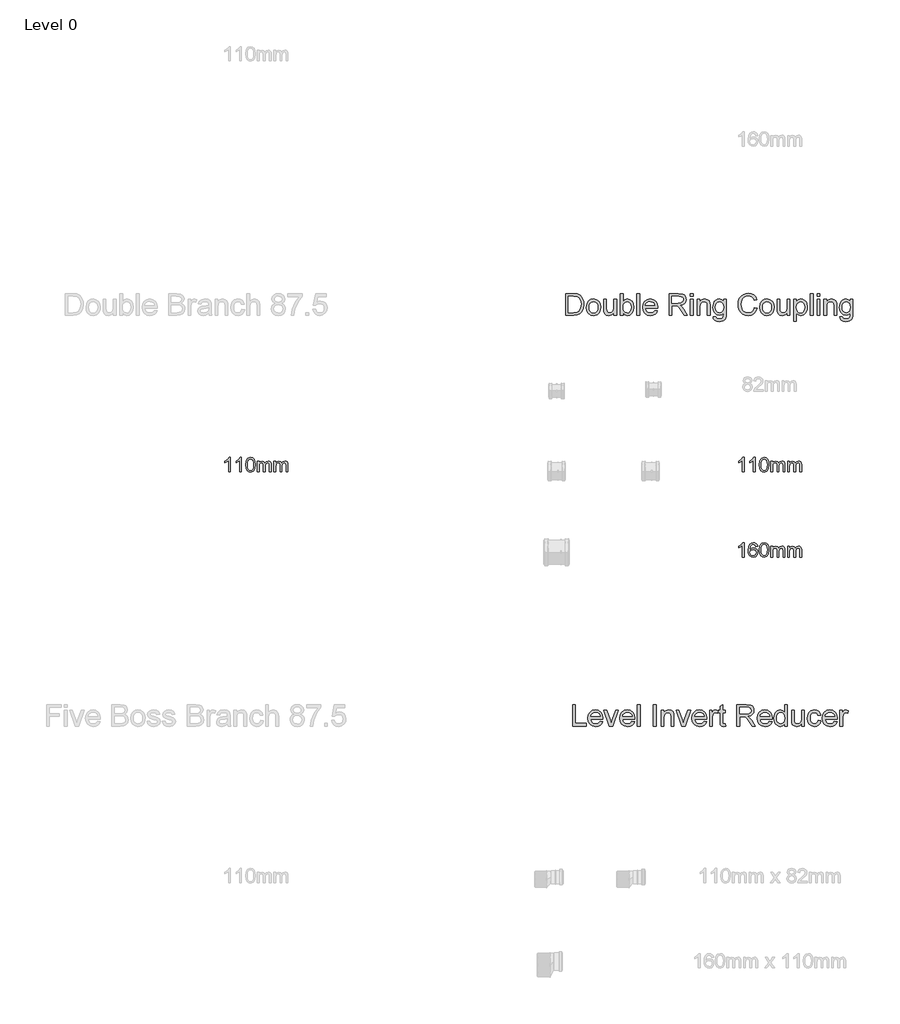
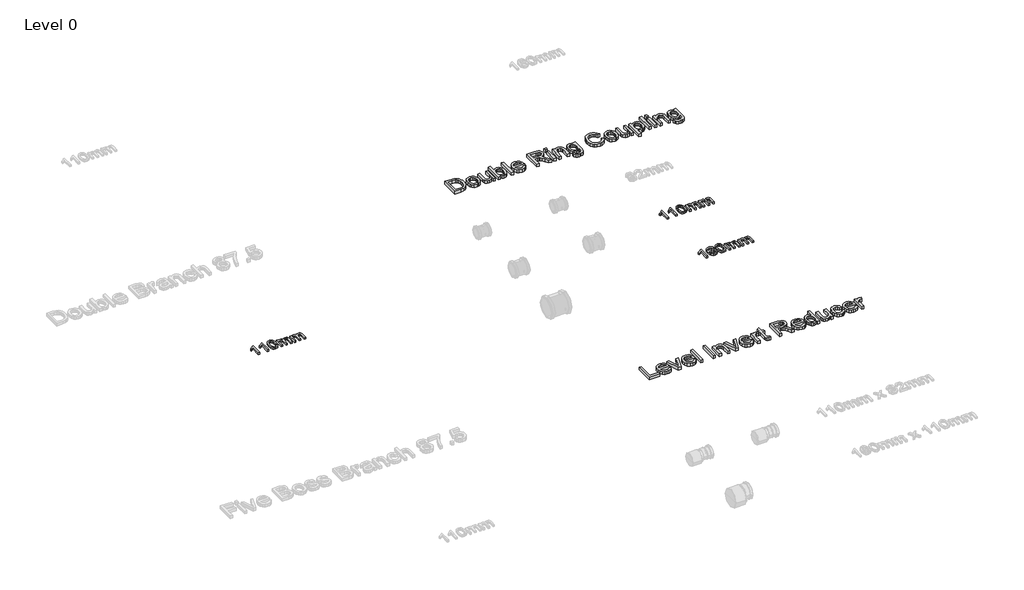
# One storey, part 22 of 23: 5 proxies.
"""IFC4 building model written with IfcOpenShell, lengths in millimetres."""

from ifc_helpers import new_model, si_unit, origin, origin_with_axes, place, context, project, spatial, polyline, outline, extrude, element, save

model = new_model("IFC4")

# Units and contexts
model_context = context("Model", 3, world=origin())
ifc_project = project(units=[si_unit("LENGTHUNIT", "METRE", prefix="MILLI")], contexts=[model_context])

# Site, building, storey
site = spatial("IfcSite", under=ifc_project)
building = spatial("IfcBuilding", under=site)
storey = spatial("IfcBuildingStorey", under=building, Name="Level 0", Elevation=0.0)

# Proxies
placement = place(None, origin())
element("IfcBuildingElementProxy", 1, Name="100mm Arial", ObjectType="100mm Arial", at=placement, inside=storey, context=model_context, shape_type="SweptSolid", body=[
    extrude(outline(polyline([(208.2706812, 5437.7167304), (195.9629889, 5437.7167304), (195.9629889, 5514.4474996), (184.3043351, 5506.1422111), (171.3476043, 5499.9282688), (171.3476043, 5511.5628842), (189.3884697, 5523.0773073), (200.3379889, 5536.1782688), (208.2706812, 5536.1782688), (208.2706812, 5437.7167304)])), origin_with_axes(), (0.0, 0.0, 1.0), 15.0),
    extrude(outline(polyline([(283.6552966, 5437.7167304), (271.3476043, 5437.7167304), (271.3476043, 5514.4474996), (259.6889505, 5506.1422111), (246.7322197, 5499.9282688), (246.7322197, 5511.5628842), (264.7730851, 5523.0773073), (275.7226043, 5536.1782688), (283.6552966, 5536.1782688), (283.6552966, 5437.7167304)])), origin_with_axes(), (0.0, 0.0, 1.0), 15.0),
    extrude(outline(polyline([(312.8860659, 5486.1542304), (316.5038543, 5514.4835573), (327.2490466, 5530.8176919), (345.1937582, 5536.1782688), (359.5687582, 5533.0051919), (369.4966428, 5523.8585573), (375.2658736, 5509.2912496), (377.5014505, 5486.1542304), (373.9197197, 5457.9450958), (363.2105851, 5441.5749035), (345.1937582, 5436.1782688), (332.4052966, 5438.5220188), (322.6937582, 5445.5532688), (315.3379889, 5462.2059131), (312.8860659, 5486.1542304)]), holes=[polyline([(325.1937582, 5486.1782688), (326.6360659, 5466.8182929), (330.9629889, 5455.613365), (337.4052966, 5450.2678121), (345.1937582, 5448.4859611), (352.9822197, 5450.2738217), (359.4245274, 5455.6374035), (363.7514505, 5466.848341), (365.1937582, 5486.1782688), (363.7995274, 5505.1025477), (359.6168351, 5516.394615), (353.1865466, 5522.0015861), (345.0495274, 5523.8705765), (337.3452005, 5522.2239419), (331.1552966, 5517.2840381), (326.6841428, 5505.2888458), (325.1937582, 5486.1782688)])]), origin_with_axes(), (0.0, 0.0, 1.0), 15.0),
    extrude(outline(polyline([(391.3476043, 5437.7167304), (391.3476043, 5510.0244227), (403.6552966, 5510.0244227), (403.6552966, 5498.1253842), (412.1168351, 5507.8729804), (424.1601043, 5511.5628842), (436.4918351, 5507.800865), (443.2706812, 5497.2599996), (452.8740466, 5507.9871631), (465.0014505, 5511.5628842), (474.2532534, 5510.0755044), (481.0952005, 5505.613365), (485.3229649, 5498.0562736), (486.7322197, 5487.2840381), (486.7322197, 5437.7167304), (474.4245274, 5437.7167304), (474.4245274, 5481.9955765), (473.2827005, 5492.2720188), (469.1480851, 5497.332115), (462.1168351, 5499.2551919), (450.0134697, 5494.3273073), (445.1937582, 5478.5340381), (445.1937582, 5437.7167304), (432.8860659, 5437.7167304), (432.8860659, 5483.3657688), (430.0375082, 5495.2888458), (420.6985659, 5499.2551919), (411.5879889, 5496.6109611), (405.5302966, 5488.8705765), (403.6552966, 5474.1830765), (403.6552966, 5437.7167304), (391.3476043, 5437.7167304)])), origin_with_axes(), (0.0, 0.0, 1.0), 15.0),
    extrude(outline(polyline([(505.1937582, 5437.7167304), (505.1937582, 5510.0244227), (517.5014505, 5510.0244227), (517.5014505, 5498.1253842), (525.9629889, 5507.8729804), (538.0062582, 5511.5628842), (550.3379889, 5507.800865), (557.1168351, 5497.2599996), (566.7202005, 5507.9871631), (578.8476043, 5511.5628842), (588.0994072, 5510.0755044), (594.9413543, 5505.613365), (599.1691187, 5498.0562736), (600.5783736, 5487.2840381), (600.5783736, 5437.7167304), (588.2706812, 5437.7167304), (588.2706812, 5481.9955765), (587.1288543, 5492.2720188), (582.9942389, 5497.332115), (575.9629889, 5499.2551919), (563.8596236, 5494.3273073), (559.039912, 5478.5340381), (559.039912, 5437.7167304), (546.7322197, 5437.7167304), (546.7322197, 5483.3657688), (543.883662, 5495.2888458), (534.5447197, 5499.2551919), (525.4341428, 5496.6109611), (519.3764505, 5488.8705765), (517.5014505, 5474.1830765), (517.5014505, 5437.7167304), (505.1937582, 5437.7167304)])), origin_with_axes(), (0.0, 0.0, 1.0), 15.0),
])
element("IfcBuildingElementProxy", 2, Name="100mm Arial", ObjectType="100mm Arial", at=placement, inside=storey, context=model_context, shape_type="SweptSolid", body=[
    extrude(outline(polyline([(3708.2706812, 5437.7167304), (3695.9629889, 5437.7167304), (3695.9629889, 5514.4474996), (3684.3043351, 5506.1422111), (3671.3476043, 5499.9282688), (3671.3476043, 5511.5628842), (3689.3884697, 5523.0773073), (3700.3379889, 5536.1782688), (3708.2706812, 5536.1782688), (3708.2706812, 5437.7167304)])), origin_with_axes(), (0.0, 0.0, 1.0), 15.0),
    extrude(outline(polyline([(3783.6552966, 5437.7167304), (3771.3476043, 5437.7167304), (3771.3476043, 5514.4474996), (3759.6889505, 5506.1422111), (3746.7322197, 5499.9282688), (3746.7322197, 5511.5628842), (3764.7730851, 5523.0773073), (3775.7226043, 5536.1782688), (3783.6552966, 5536.1782688), (3783.6552966, 5437.7167304)])), origin_with_axes(), (0.0, 0.0, 1.0), 15.0),
    extrude(outline(polyline([(3812.8860659, 5486.1542304), (3816.5038543, 5514.4835573), (3827.2490466, 5530.8176919), (3845.1937582, 5536.1782688), (3859.5687582, 5533.0051919), (3869.4966428, 5523.8585573), (3875.2658736, 5509.2912496), (3877.5014505, 5486.1542304), (3873.9197197, 5457.9450958), (3863.2105851, 5441.5749035), (3845.1937582, 5436.1782688), (3832.4052966, 5438.5220188), (3822.6937582, 5445.5532688), (3815.3379889, 5462.2059131), (3812.8860659, 5486.1542304)]), holes=[polyline([(3825.1937582, 5486.1782688), (3826.6360659, 5466.8182929), (3830.9629889, 5455.613365), (3837.4052966, 5450.2678121), (3845.1937582, 5448.4859611), (3852.9822197, 5450.2738217), (3859.4245274, 5455.6374035), (3863.7514505, 5466.848341), (3865.1937582, 5486.1782688), (3863.7995274, 5505.1025477), (3859.6168351, 5516.394615), (3853.1865466, 5522.0015861), (3845.0495274, 5523.8705765), (3837.3452005, 5522.2239419), (3831.1552966, 5517.2840381), (3826.6841428, 5505.2888458), (3825.1937582, 5486.1782688)])]), origin_with_axes(), (0.0, 0.0, 1.0), 15.0),
    extrude(outline(polyline([(3891.3476043, 5437.7167304), (3891.3476043, 5510.0244227), (3903.6552966, 5510.0244227), (3903.6552966, 5498.1253842), (3912.1168351, 5507.8729804), (3924.1601043, 5511.5628842), (3936.4918351, 5507.800865), (3943.2706812, 5497.2599996), (3952.8740466, 5507.9871631), (3965.0014505, 5511.5628842), (3974.2532534, 5510.0755044), (3981.0952005, 5505.613365), (3985.3229649, 5498.0562736), (3986.7322197, 5487.2840381), (3986.7322197, 5437.7167304), (3974.4245274, 5437.7167304), (3974.4245274, 5481.9955765), (3973.2827005, 5492.2720188), (3969.1480851, 5497.332115), (3962.1168351, 5499.2551919), (3950.0134697, 5494.3273073), (3945.1937582, 5478.5340381), (3945.1937582, 5437.7167304), (3932.8860659, 5437.7167304), (3932.8860659, 5483.3657688), (3930.0375082, 5495.2888458), (3920.6985659, 5499.2551919), (3911.5879889, 5496.6109611), (3905.5302966, 5488.8705765), (3903.6552966, 5474.1830765), (3903.6552966, 5437.7167304), (3891.3476043, 5437.7167304)])), origin_with_axes(), (0.0, 0.0, 1.0), 15.0),
    extrude(outline(polyline([(4005.1937582, 5437.7167304), (4005.1937582, 5510.0244227), (4017.5014505, 5510.0244227), (4017.5014505, 5498.1253842), (4025.9629889, 5507.8729804), (4038.0062582, 5511.5628842), (4050.3379889, 5507.800865), (4057.1168351, 5497.2599996), (4066.7202005, 5507.9871631), (4078.8476043, 5511.5628842), (4088.0994072, 5510.0755044), (4094.9413543, 5505.613365), (4099.1691187, 5498.0562736), (4100.5783736, 5487.2840381), (4100.5783736, 5437.7167304), (4088.2706812, 5437.7167304), (4088.2706812, 5481.9955765), (4087.1288543, 5492.2720188), (4082.9942389, 5497.332115), (4075.9629889, 5499.2551919), (4063.8596236, 5494.3273073), (4059.039912, 5478.5340381), (4059.039912, 5437.7167304), (4046.7322197, 5437.7167304), (4046.7322197, 5483.3657688), (4043.883662, 5495.2888458), (4034.5447197, 5499.2551919), (4025.4341428, 5496.6109611), (4019.3764505, 5488.8705765), (4017.5014505, 5474.1830765), (4017.5014505, 5437.7167304), (4005.1937582, 5437.7167304)])), origin_with_axes(), (0.0, 0.0, 1.0), 15.0),
])
element("IfcBuildingElementProxy", 3, Name="100mm Arial", ObjectType="100mm Arial", at=placement, inside=storey, context=model_context, shape_type="SweptSolid", body=[
    extrude(outline(polyline([(3708.2706812, 4857.7167304), (3695.9629889, 4857.7167304), (3695.9629889, 4934.4474996), (3684.3043351, 4926.1422111), (3671.3476043, 4919.9282688), (3671.3476043, 4931.5628842), (3689.3884697, 4943.0773073), (3700.3379889, 4956.1782688), (3708.2706812, 4956.1782688), (3708.2706812, 4857.7167304)])), origin_with_axes(), (0.0, 0.0, 1.0), 15.0),
    extrude(outline(polyline([(3800.5783736, 4930.0244227), (3788.2706812, 4928.4859611), (3783.6072197, 4938.7503842), (3771.2754889, 4943.8705765), (3760.1697197, 4940.8898073), (3751.7682774, 4929.6999035), (3748.2706812, 4907.7648073), (3759.1240466, 4917.5845188), (3772.5735659, 4920.7936535), (3783.9437582, 4918.6001438), (3793.4870274, 4912.019615), (3799.9593832, 4901.9655285), (3802.1168351, 4889.3513458), (3798.0543351, 4872.3681727), (3786.8764505, 4860.3489419), (3770.7466428, 4856.1782688), (3756.7833014, 4858.9426919), (3745.6625082, 4867.2359611), (3738.3878687, 4881.8753842), (3735.9629889, 4903.6782688), (3738.6552966, 4928.19149), (3746.7322197, 4944.9523073), (3757.7598639, 4953.3717785), (3772.0447197, 4956.1782688), (3782.8439986, 4954.44149), (3791.4918351, 4949.2311535), (3797.5495274, 4940.9559131), (3800.5783736, 4930.0244227)]), holes=[polyline([(3748.2706812, 4889.5436535), (3751.1192389, 4878.8825958), (3758.6913543, 4871.1422111), (3769.7851043, 4868.4859611), (3777.9070995, 4869.8621631), (3784.2923159, 4873.9907688), (3788.4299361, 4880.4811535), (3789.8091428, 4888.9426919), (3788.4479649, 4897.0646871), (3784.3644312, 4903.2575958), (3769.2802966, 4908.4859611), (3754.3884697, 4903.2575958), (3749.8001284, 4897.2149275), (3748.2706812, 4889.5436535)])]), origin_with_axes(), (0.0, 0.0, 1.0), 15.0),
    extrude(outline(polyline([(3812.8860659, 4906.1542304), (3816.5038543, 4934.4835573), (3827.2490466, 4950.8176919), (3845.1937582, 4956.1782688), (3859.5687582, 4953.0051919), (3869.4966428, 4943.8585573), (3875.2658736, 4929.2912496), (3877.5014505, 4906.1542304), (3873.9197197, 4877.9450958), (3863.2105851, 4861.5749035), (3845.1937582, 4856.1782688), (3832.4052966, 4858.5220188), (3822.6937582, 4865.5532688), (3815.3379889, 4882.2059131), (3812.8860659, 4906.1542304)]), holes=[polyline([(3825.1937582, 4906.1782688), (3826.6360659, 4886.8182929), (3830.9629889, 4875.613365), (3837.4052966, 4870.2678121), (3845.1937582, 4868.4859611), (3852.9822197, 4870.2738217), (3859.4245274, 4875.6374035), (3863.7514505, 4886.848341), (3865.1937582, 4906.1782688), (3863.7995274, 4925.1025477), (3859.6168351, 4936.394615), (3853.1865466, 4942.0015861), (3845.0495274, 4943.8705765), (3837.3452005, 4942.2239419), (3831.1552966, 4937.2840381), (3826.6841428, 4925.2888458), (3825.1937582, 4906.1782688)])]), origin_with_axes(), (0.0, 0.0, 1.0), 15.0),
    extrude(outline(polyline([(3891.3476043, 4857.7167304), (3891.3476043, 4930.0244227), (3903.6552966, 4930.0244227), (3903.6552966, 4918.1253842), (3912.1168351, 4927.8729804), (3924.1601043, 4931.5628842), (3936.4918351, 4927.800865), (3943.2706812, 4917.2599996), (3952.8740466, 4927.9871631), (3965.0014505, 4931.5628842), (3974.2532534, 4930.0755044), (3981.0952005, 4925.613365), (3985.3229649, 4918.0562736), (3986.7322197, 4907.2840381), (3986.7322197, 4857.7167304), (3974.4245274, 4857.7167304), (3974.4245274, 4901.9955765), (3973.2827005, 4912.2720188), (3969.1480851, 4917.332115), (3962.1168351, 4919.2551919), (3950.0134697, 4914.3273073), (3945.1937582, 4898.5340381), (3945.1937582, 4857.7167304), (3932.8860659, 4857.7167304), (3932.8860659, 4903.3657688), (3930.0375082, 4915.2888458), (3920.6985659, 4919.2551919), (3911.5879889, 4916.6109611), (3905.5302966, 4908.8705765), (3903.6552966, 4894.1830765), (3903.6552966, 4857.7167304), (3891.3476043, 4857.7167304)])), origin_with_axes(), (0.0, 0.0, 1.0), 15.0),
    extrude(outline(polyline([(4005.1937582, 4857.7167304), (4005.1937582, 4930.0244227), (4017.5014505, 4930.0244227), (4017.5014505, 4918.1253842), (4025.9629889, 4927.8729804), (4038.0062582, 4931.5628842), (4050.3379889, 4927.800865), (4057.1168351, 4917.2599996), (4066.7202005, 4927.9871631), (4078.8476043, 4931.5628842), (4088.0994072, 4930.0755044), (4094.9413543, 4925.613365), (4099.1691187, 4918.0562736), (4100.5783736, 4907.2840381), (4100.5783736, 4857.7167304), (4088.2706812, 4857.7167304), (4088.2706812, 4901.9955765), (4087.1288543, 4912.2720188), (4082.9942389, 4917.332115), (4075.9629889, 4919.2551919), (4063.8596236, 4914.3273073), (4059.039912, 4898.5340381), (4059.039912, 4857.7167304), (4046.7322197, 4857.7167304), (4046.7322197, 4903.3657688), (4043.883662, 4915.2888458), (4034.5447197, 4919.2551919), (4025.4341428, 4916.6109611), (4019.3764505, 4908.8705765), (4017.5014505, 4894.1830765), (4017.5014505, 4857.7167304), (4005.1937582, 4857.7167304)])), origin_with_axes(), (0.0, 0.0, 1.0), 15.0),
])
element("IfcBuildingElementProxy", 4, Name="150mm Arial", ObjectType="150mm Arial", at=placement, inside=storey, context=model_context, shape_type="SweptSolid", body=[
    extrude(outline(polyline([(2493.6258565, 6505.2145219), (2493.6258565, 6652.9068296), (2544.5753757, 6652.9068296), (2570.9335488, 6650.7794258), (2592.6402796, 6640.2145219), (2602.8536209, 6628.9645219), (2610.1282603, 6614.9741373), (2614.4822267, 6598.5138008), (2615.9335488, 6579.853945), (2612.0032603, 6550.0522623), (2601.9071065, 6528.5438488), (2588.4215296, 6515.1484161), (2570.7712892, 6507.7385604), (2547.0272988, 6505.2145219), (2493.6258565, 6505.2145219)]), holes=[polyline([(2512.087395, 6523.6760604), (2544.7556642, 6523.6760604), (2568.5176834, 6526.3443296), (2582.2196065, 6533.8803873), (2593.4515777, 6552.2157238), (2597.4720103, 6580.1424065), (2595.5023589, 6600.2625988), (2589.5934046, 6615.1183681), (2580.8629358, 6625.322695), (2570.4287411, 6631.4885604), (2544.2508565, 6634.4452911), (2512.087395, 6634.4452911), (2512.087395, 6523.6760604)])]), origin_with_axes(), (0.0, 0.0, 1.0), 25.0),
    extrude(outline(polyline([(2634.3950873, 6559.4452911), (2638.3884767, 6585.5961325), (2650.368645, 6603.9765411), (2665.1703277, 6612.9819498), (2682.8926834, 6615.9837527), (2702.2872147, 6612.3284041), (2717.7785007, 6601.3623585), (2727.9332483, 6583.9510003), (2731.3181642, 6560.9597142), (2729.82177, 6542.3088729), (2725.3325873, 6528.1111565), (2717.9813253, 6517.4786445), (2707.898693, 6509.5234161), (2695.923032, 6504.5609762), (2682.8926834, 6502.9068296), (2663.2637772, 6506.5486565), (2647.79052, 6517.4741373), (2637.7439454, 6535.2505796), (2634.3950873, 6559.4452911)]), holes=[polyline([(2652.8566257, 6559.4813488), (2654.993044, 6542.7731157), (2661.4022988, 6530.86957), (2671.0477315, 6523.7436686), (2682.8926834, 6521.3683681), (2694.6835488, 6523.7571902), (2704.3109527, 6530.9236565), (2710.7202075, 6542.9849546), (2712.8566257, 6560.0582719), (2710.7066858, 6576.2797262), (2704.2568661, 6588.0210123), (2694.6159406, 6595.1469137), (2682.8926834, 6597.5222142), (2671.0477315, 6595.1559282), (2661.4022988, 6588.05707), (2654.993044, 6576.1805676), (2652.8566257, 6559.4813488)])]), origin_with_axes(), (0.0, 0.0, 1.0), 25.0),
    extrude(outline(polyline([(2821.3181642, 6505.2145219), (2821.3181642, 6523.8563488), (2806.8590296, 6508.1442094), (2788.0008565, 6502.9068296), (2770.6390777, 6506.5847142), (2758.6679238, 6515.8154835), (2753.1691257, 6529.4092335), (2752.087395, 6546.572695), (2752.087395, 6613.6760604), (2770.5489334, 6613.6760604), (2770.5489334, 6555.2625988), (2771.6667219, 6536.4404835), (2778.9684046, 6525.3888008), (2792.7244142, 6521.3683681), (2808.1390777, 6525.478945), (2818.3253757, 6536.6748585), (2821.3181642, 6557.2457719), (2821.3181642, 6613.6760604), (2839.7797027, 6613.6760604), (2839.7797027, 6505.2145219), (2821.3181642, 6505.2145219)])), origin_with_axes(), (0.0, 0.0, 1.0), 25.0),
    extrude(outline(polyline([(2883.6258565, 6505.2145219), (2865.164318, 6505.2145219), (2865.164318, 6652.9068296), (2883.6258565, 6652.9068296), (2883.6258565, 6598.135195), (2896.5525392, 6611.5216133), (2912.6162411, 6615.9837527), (2931.1138373, 6611.96332), (2945.4647988, 6600.6592335), (2954.2809046, 6583.0811085), (2957.4720103, 6561.0678873), (2954.1682243, 6536.4224546), (2944.2568661, 6518.0871181), (2929.7120945, 6506.7019017), (2912.508068, 6502.9068296), (2896.0928036, 6507.8016613), (2883.6258565, 6522.4861565), (2883.6258565, 6505.2145219)]), holes=[polyline([(2883.6258565, 6560.2025027), (2884.8878757, 6544.8058681), (2888.6739334, 6534.385195), (2898.3464094, 6524.6225748), (2910.9215296, 6521.3683681), (2921.5765777, 6523.7662046), (2930.681145, 6530.9597142), (2936.9281402, 6542.9038248), (2939.0104719, 6559.5534642), (2937.0137772, 6576.4464931), (2931.023693, 6588.2553873), (2922.2030801, 6595.2055075), (2911.7147988, 6597.5222142), (2901.0597507, 6595.1243777), (2891.9551834, 6587.9308681), (2885.7081882, 6576.2031036), (2883.6258565, 6560.2025027)])]), origin_with_axes(), (0.0, 0.0, 1.0), 25.0),
    extrude(outline(polyline([(2978.2412411, 6505.2145219), (2978.2412411, 6652.9068296), (2996.7027796, 6652.9068296), (2996.7027796, 6505.2145219), (2978.2412411, 6505.2145219)])), origin_with_axes(), (0.0, 0.0, 1.0), 25.0),
    extrude(outline(polyline([(3100.3325873, 6537.5222142), (3118.4335488, 6535.2145219), (3111.9116137, 6521.5756998), (3101.5044623, 6511.3803873), (3087.4464695, 6505.025219), (3069.9720103, 6502.9068296), (3048.3103517, 6506.5621782), (3031.6426834, 6517.5282238), (3021.0146786, 6535.0928272), (3017.4720103, 6558.5438488), (3021.0507363, 6582.7836325), (3031.7869142, 6600.9116373), (3048.2292219, 6612.2157238), (3068.9263373, 6615.9837527), (3088.9789214, 6612.2247383), (3105.0020584, 6600.947695), (3115.5083685, 6582.8557479), (3119.0104719, 6558.6520219), (3118.9022988, 6553.6760604), (3035.9335488, 6553.6760604), (3039.1291618, 6539.8569498), (3046.5525392, 6529.697695), (3057.266181, 6523.4506998), (3070.3325873, 6521.3683681), (3088.4335488, 6525.2265411), (3100.3325873, 6537.5222142)]), holes=[polyline([(3035.9335488, 6572.1375988), (3100.5489334, 6572.1375988), (3098.0519382, 6581.8912046), (3093.1571065, 6588.8683681), (3082.3938853, 6595.3587527), (3068.8542219, 6597.5222142), (3056.4098108, 6595.7959522), (3046.1198469, 6590.6171661), (3038.9669022, 6582.5447503), (3035.9335488, 6572.1375988)])]), origin_with_axes(), (0.0, 0.0, 1.0), 25.0),
    extrude(outline(polyline([(3197.4720103, 6505.2145219), (3197.4720103, 6652.9068296), (3261.1138373, 6652.9068296), (3290.6631161, 6648.9224546), (3299.758669, 6643.4056277), (3306.8169623, 6634.8238969), (3311.3467099, 6624.1823705), (3312.8566257, 6612.4861565), (3310.3551233, 6597.9368777), (3302.8506161, 6585.8755796), (3290.1177435, 6577.0324306), (3271.931145, 6572.1375988), (3282.4239334, 6564.2409642), (3297.3878757, 6545.2385604), (3322.0152796, 6505.2145219), (3300.5609527, 6505.2145219), (3281.3422027, 6535.8275027), (3267.4599911, 6556.0919258), (3257.7063853, 6565.6652431), (3248.9263373, 6569.1808681), (3238.2172027, 6569.8299065), (3215.9335488, 6569.8299065), (3215.9335488, 6505.2145219), (3197.4720103, 6505.2145219)]), holes=[polyline([(3215.9335488, 6588.291445), (3257.2556642, 6588.291445), (3278.3313853, 6590.9056277), (3290.3025392, 6599.2710123), (3294.3950873, 6611.8010604), (3292.4434647, 6620.806469), (3286.5885969, 6628.0630796), (3276.5149791, 6632.8497383), (3261.9071065, 6634.4452911), (3215.9335488, 6634.4452911), (3215.9335488, 6588.291445)])]), origin_with_axes(), (0.0, 0.0, 1.0), 25.0),
    extrude(outline(polyline([(3342.8566257, 6634.4452911), (3342.8566257, 6652.9068296), (3361.3181642, 6652.9068296), (3361.3181642, 6634.4452911), (3342.8566257, 6634.4452911)])), origin_with_axes(), (0.0, 0.0, 1.0), 25.0),
    extrude(outline(polyline([(3342.8566257, 6505.2145219), (3342.8566257, 6613.6760604), (3361.3181642, 6613.6760604), (3361.3181642, 6505.2145219), (3342.8566257, 6505.2145219)])), origin_with_axes(), (0.0, 0.0, 1.0), 25.0),
    extrude(outline(polyline([(3389.0104719, 6505.2145219), (3389.0104719, 6613.6760604), (3407.4720103, 6613.6760604), (3407.4720103, 6598.5318296), (3421.5885969, 6611.6207719), (3440.8614334, 6615.9837527), (3458.2953277, 6612.4681277), (3470.1943661, 6603.2373585), (3475.7292219, 6589.6616373), (3476.7027796, 6571.8130796), (3476.7027796, 6505.2145219), (3458.2412411, 6505.2145219), (3458.2412411, 6569.3250988), (3456.1138373, 6585.6592335), (3448.5958084, 6594.2950508), (3435.9215296, 6597.5222142), (3425.1087291, 6595.7103152), (3415.8914815, 6590.2746181), (3409.5768781, 6579.7728152), (3407.4720103, 6562.7625988), (3407.4720103, 6505.2145219), (3389.0104719, 6505.2145219)])), origin_with_axes(), (0.0, 0.0, 1.0), 25.0),
    extrude(outline(polyline([(3497.4720103, 6495.9837527), (3515.9335488, 6493.6760604), (3521.9191257, 6483.9404835), (3539.8397988, 6479.8299065), (3558.7340296, 6484.4813488), (3567.7484527, 6497.5342335), (3569.0104719, 6519.0606758), (3556.0116738, 6508.6760604), (3540.164318, 6505.2145219), (3521.1303637, 6509.243969), (3506.9371546, 6521.3323104), (3498.1075272, 6539.0546661), (3495.164318, 6559.9861565), (3500.44677, 6588.5979354), (3506.9101113, 6600.2130195), (3515.7352315, 6608.8443296), (3526.6201474, 6614.1988969), (3539.2628757, 6615.9837527), (3555.7322267, 6611.9452911), (3569.0104719, 6599.8299065), (3569.0104719, 6613.6760604), (3587.4720103, 6613.6760604), (3587.4720103, 6520.0342335), (3586.2099911, 6498.4131397), (3582.4239334, 6484.1748585), (3575.9019983, 6474.7322503), (3566.4323469, 6467.4981758), (3554.2223108, 6462.90082), (3539.4792219, 6461.3683681), (3522.3022387, 6463.5273224), (3508.7760969, 6470.0041854), (3500.0997147, 6480.8169859), (3497.4720103, 6495.9837527)]), holes=[polyline([(3513.6258565, 6561.2481758), (3515.5955079, 6544.314582), (3521.5044623, 6532.6724546), (3530.3881762, 6525.9251589), (3541.2821065, 6523.6760604), (3552.094907, 6525.9116373), (3561.023693, 6532.6183681), (3567.0137772, 6544.1117575), (3569.0104719, 6560.7073104), (3566.9551834, 6576.7124186), (3560.789318, 6588.2373585), (3551.7298228, 6595.2010003), (3540.993645, 6597.5222142), (3530.4512772, 6595.237058), (3521.6126353, 6588.3815892), (3515.6225512, 6577.0279234), (3513.6258565, 6561.2481758)])]), origin_with_axes(), (0.0, 0.0, 1.0), 25.0),
    extrude(outline(polyline([(3779.0104719, 6557.7145219), (3797.4720103, 6552.9549065), (3788.9533805, 6531.4419859), (3775.5849911, 6515.7253392), (3758.024895, 6506.111457), (3736.931145, 6502.9068296), (3715.5173829, 6505.3317094), (3698.5116738, 6512.6063488), (3685.476818, 6524.478344), (3675.9756161, 6540.6952911), (3670.1748349, 6559.760796), (3668.2412411, 6580.1784642), (3670.4272387, 6601.713921), (3676.9852315, 6620.3106758), (3687.5726714, 6635.3782839), (3701.8470103, 6646.3263008), (3718.7760969, 6652.9924666), (3737.3277796, 6655.2145219), (3757.5696666, 6652.338921), (3774.304943, 6643.7121181), (3787.0107724, 6629.8659642), (3795.164318, 6611.3323104), (3776.7027796, 6606.9332719), (3770.3025392, 6620.3963128), (3761.5585488, 6629.6315892), (3750.3626353, 6634.9726349), (3736.6066257, 6636.7529835), (3720.7502555, 6634.7788248), (3707.7244142, 6628.8563488), (3697.8400993, 6619.6075508), (3691.4083084, 6607.6544258), (3686.7027796, 6580.2145219), (3692.273693, 6548.4116373), (3699.3950873, 6536.5351349), (3709.617443, 6528.0931277), (3721.8725512, 6523.049558), (3735.0922027, 6521.3683681), (3750.5023589, 6523.6580315), (3763.3434046, 6530.5270219), (3773.0384166, 6541.9032238), (3779.0104719, 6557.7145219)])), origin_with_axes(), (0.0, 0.0, 1.0), 25.0),
    extrude(outline(polyline([(3815.9335488, 6559.4452911), (3819.9269382, 6585.5961325), (3831.9071065, 6603.9765411), (3846.7087892, 6612.9819498), (3864.431145, 6615.9837527), (3883.8256762, 6612.3284041), (3899.3169623, 6601.3623585), (3909.4717099, 6583.9510003), (3912.8566257, 6560.9597142), (3911.3602315, 6542.3088729), (3906.8710488, 6528.1111565), (3899.5197868, 6517.4786445), (3889.4371546, 6509.5234161), (3877.4614935, 6504.5609762), (3864.431145, 6502.9068296), (3844.8022387, 6506.5486565), (3829.3289815, 6517.4741373), (3819.282407, 6535.2505796), (3815.9335488, 6559.4452911)]), holes=[polyline([(3834.3950873, 6559.4813488), (3836.5315055, 6542.7731157), (3842.9407603, 6530.86957), (3852.586193, 6523.7436686), (3864.431145, 6521.3683681), (3876.2220103, 6523.7571902), (3885.8494142, 6530.9236565), (3892.258669, 6542.9849546), (3894.3950873, 6560.0582719), (3892.2451474, 6576.2797262), (3885.7953277, 6588.0210123), (3876.1544022, 6595.1469137), (3864.431145, 6597.5222142), (3852.586193, 6595.1559282), (3842.9407603, 6588.05707), (3836.5315055, 6576.1805676), (3834.3950873, 6559.4813488)])]), origin_with_axes(), (0.0, 0.0, 1.0), 25.0),
    extrude(outline(polyline([(4002.8566257, 6505.2145219), (4002.8566257, 6523.8563488), (3988.3974911, 6508.1442094), (3969.539318, 6502.9068296), (3952.1775392, 6506.5847142), (3940.2063853, 6515.8154835), (3934.7075873, 6529.4092335), (3933.6258565, 6546.572695), (3933.6258565, 6613.6760604), (3952.087395, 6613.6760604), (3952.087395, 6555.2625988), (3953.2051834, 6536.4404835), (3960.5068661, 6525.3888008), (3974.2628757, 6521.3683681), (3989.6775392, 6525.478945), (3999.8638373, 6536.6748585), (4002.8566257, 6557.2457719), (4002.8566257, 6613.6760604), (4021.3181642, 6613.6760604), (4021.3181642, 6505.2145219), (4002.8566257, 6505.2145219)])), origin_with_axes(), (0.0, 0.0, 1.0), 25.0),
    extrude(outline(polyline([(4046.7027796, 6463.6760604), (4046.7027796, 6613.6760604), (4065.164318, 6613.6760604), (4065.164318, 6595.5750988), (4077.9287411, 6610.8815892), (4095.164318, 6615.9837527), (4107.649294, 6614.1988969), (4118.5657603, 6608.8443296), (4127.4539815, 6600.24457), (4133.8542219, 6588.7241373), (4139.0104719, 6560.2746181), (4137.5546426, 6544.4858561), (4133.1871546, 6530.3647623), (4126.0477315, 6518.6279835), (4116.2760969, 6509.9921661), (4104.8953878, 6504.6781637), (4092.9287411, 6502.9068296), (4076.8650392, 6507.6484161), (4065.164318, 6519.6375988), (4065.164318, 6463.6760604), (4046.7027796, 6463.6760604)]), holes=[polyline([(4065.164318, 6558.5799065), (4067.1610128, 6542.0294258), (4073.1510969, 6530.4549065), (4081.9897387, 6523.6400027), (4092.5321065, 6521.3683681), (4103.2457483, 6523.7211325), (4112.3097507, 6530.7794258), (4118.4891378, 6542.7776229), (4120.5489334, 6559.9500988), (4118.5387171, 6576.4104354), (4112.508068, 6588.1472142), (4103.6829478, 6595.1784642), (4093.289318, 6597.5222142), (4082.8551233, 6595.0297262), (4073.6919623, 6587.5522623), (4067.2962291, 6575.3241974), (4065.164318, 6558.5799065)])]), origin_with_axes(), (0.0, 0.0, 1.0), 25.0),
    extrude(outline(polyline([(4159.7797027, 6505.2145219), (4159.7797027, 6652.9068296), (4178.2412411, 6652.9068296), (4178.2412411, 6505.2145219), (4159.7797027, 6505.2145219)])), origin_with_axes(), (0.0, 0.0, 1.0), 25.0),
    extrude(outline(polyline([(4205.9335488, 6634.4452911), (4205.9335488, 6652.9068296), (4224.3950873, 6652.9068296), (4224.3950873, 6634.4452911), (4205.9335488, 6634.4452911)])), origin_with_axes(), (0.0, 0.0, 1.0), 25.0),
    extrude(outline(polyline([(4205.9335488, 6505.2145219), (4205.9335488, 6613.6760604), (4224.3950873, 6613.6760604), (4224.3950873, 6505.2145219), (4205.9335488, 6505.2145219)])), origin_with_axes(), (0.0, 0.0, 1.0), 25.0),
    extrude(outline(polyline([(4252.087395, 6505.2145219), (4252.087395, 6613.6760604), (4270.5489334, 6613.6760604), (4270.5489334, 6598.5318296), (4284.66552, 6611.6207719), (4303.9383565, 6615.9837527), (4321.3722507, 6612.4681277), (4333.2712892, 6603.2373585), (4338.806145, 6589.6616373), (4339.7797027, 6571.8130796), (4339.7797027, 6505.2145219), (4321.3181642, 6505.2145219), (4321.3181642, 6569.3250988), (4319.1907603, 6585.6592335), (4311.6727315, 6594.2950508), (4298.9984527, 6597.5222142), (4288.1856522, 6595.7103152), (4278.9684046, 6590.2746181), (4272.6538012, 6579.7728152), (4270.5489334, 6562.7625988), (4270.5489334, 6505.2145219), (4252.087395, 6505.2145219)])), origin_with_axes(), (0.0, 0.0, 1.0), 25.0),
    extrude(outline(polyline([(4360.5489334, 6495.9837527), (4379.0104719, 6493.6760604), (4384.9960488, 6483.9404835), (4402.9167219, 6479.8299065), (4421.8109527, 6484.4813488), (4430.8253757, 6497.5342335), (4432.087395, 6519.0606758), (4419.0885969, 6508.6760604), (4403.2412411, 6505.2145219), (4384.2072868, 6509.243969), (4370.0140777, 6521.3323104), (4361.1844503, 6539.0546661), (4358.2412411, 6559.9861565), (4363.523693, 6588.5979354), (4369.9870344, 6600.2130195), (4378.8121546, 6608.8443296), (4389.6970704, 6614.1988969), (4402.3397988, 6615.9837527), (4418.8091498, 6611.9452911), (4432.087395, 6599.8299065), (4432.087395, 6613.6760604), (4450.5489334, 6613.6760604), (4450.5489334, 6520.0342335), (4449.2869142, 6498.4131397), (4445.5008565, 6484.1748585), (4438.9789214, 6474.7322503), (4429.50927, 6467.4981758), (4417.2992339, 6462.90082), (4402.556145, 6461.3683681), (4385.3791618, 6463.5273224), (4371.85302, 6470.0041854), (4363.1766378, 6480.8169859), (4360.5489334, 6495.9837527)]), holes=[polyline([(4376.7027796, 6561.2481758), (4378.672431, 6544.314582), (4384.5813853, 6532.6724546), (4393.4650993, 6525.9251589), (4404.3590296, 6523.6760604), (4415.1718301, 6525.9116373), (4424.1006161, 6532.6183681), (4430.0907003, 6544.1117575), (4432.087395, 6560.7073104), (4430.0321065, 6576.7124186), (4423.8662411, 6588.2373585), (4414.8067459, 6595.2010003), (4404.070568, 6597.5222142), (4393.5282003, 6595.237058), (4384.6895584, 6588.3815892), (4378.6994743, 6577.0279234), (4376.7027796, 6561.2481758)])]), origin_with_axes(), (0.0, 0.0, 1.0), 25.0),
])
element("IfcBuildingElementProxy", 5, Name="150mm Arial", ObjectType="150mm Arial", at=placement, inside=storey, context=model_context, shape_type="SweptSolid", body=[
    extrude(outline(polyline([(2540.9335488, 3705.2145219), (2540.9335488, 3852.9068296), (2559.3950873, 3852.9068296), (2559.3950873, 3723.6760604), (2633.2412411, 3723.6760604), (2633.2412411, 3705.2145219), (2540.9335488, 3705.2145219)])), origin_with_axes(), (0.0, 0.0, 1.0), 25.0),
    extrude(outline(polyline([(2727.6402796, 3737.5222142), (2745.7412411, 3735.2145219), (2739.219306, 3721.5756998), (2728.8121546, 3711.3803873), (2714.7541618, 3705.025219), (2697.2797027, 3702.9068296), (2675.618044, 3706.5621782), (2658.9503757, 3717.5282238), (2648.3223709, 3735.0928272), (2644.7797027, 3758.5438488), (2648.3584286, 3782.7836325), (2659.0946065, 3800.9116373), (2675.5369142, 3812.2157238), (2696.2340296, 3815.9837527), (2716.2866137, 3812.2247383), (2732.3097507, 3800.947695), (2742.8160608, 3782.8557479), (2746.3181642, 3758.6520219), (2746.2099911, 3753.6760604), (2663.2412411, 3753.6760604), (2666.4368541, 3739.8569498), (2673.8602315, 3729.697695), (2684.5738733, 3723.4506998), (2697.6402796, 3721.3683681), (2715.7412411, 3725.2265411), (2727.6402796, 3737.5222142)]), holes=[polyline([(2663.2412411, 3772.1375988), (2727.8566257, 3772.1375988), (2725.3596305, 3781.8912046), (2720.4647988, 3788.8683681), (2709.7015777, 3795.3587527), (2696.1619142, 3797.5222142), (2683.7175031, 3795.7959522), (2673.4275392, 3790.6171661), (2666.2745945, 3782.5447503), (2663.2412411, 3772.1375988)])]), origin_with_axes(), (0.0, 0.0, 1.0), 25.0),
    extrude(outline(polyline([(2791.3902796, 3705.2145219), (2753.2412411, 3813.6760604), (2772.7845103, 3813.6760604), (2795.8974911, 3748.7000988), (2802.8566257, 3726.8491373), (2809.6715296, 3747.4741373), (2832.9287411, 3813.6760604), (2852.4720103, 3813.6760604), (2814.7917219, 3705.2145219), (2791.3902796, 3705.2145219)])), origin_with_axes(), (0.0, 0.0, 1.0), 25.0),
    extrude(outline(polyline([(2944.5633565, 3737.5222142), (2962.664318, 3735.2145219), (2956.1423829, 3721.5756998), (2945.7352315, 3711.3803873), (2931.6772387, 3705.025219), (2914.2027796, 3702.9068296), (2892.5411209, 3706.5621782), (2875.8734527, 3717.5282238), (2865.2454478, 3735.0928272), (2861.7027796, 3758.5438488), (2865.2815055, 3782.7836325), (2876.0176834, 3800.9116373), (2892.4599911, 3812.2157238), (2913.1571065, 3815.9837527), (2933.2096906, 3812.2247383), (2949.2328277, 3800.947695), (2959.7391378, 3782.8557479), (2963.2412411, 3758.6520219), (2963.133068, 3753.6760604), (2880.164318, 3753.6760604), (2883.359931, 3739.8569498), (2890.7833084, 3729.697695), (2901.4969503, 3723.4506998), (2914.5633565, 3721.3683681), (2932.664318, 3725.2265411), (2944.5633565, 3737.5222142)]), holes=[polyline([(2880.164318, 3772.1375988), (2944.7797027, 3772.1375988), (2942.2827075, 3781.8912046), (2937.3878757, 3788.8683681), (2926.6246546, 3795.3587527), (2913.0849911, 3797.5222142), (2900.6405801, 3795.7959522), (2890.3506161, 3790.6171661), (2883.1976714, 3782.5447503), (2880.164318, 3772.1375988)])]), origin_with_axes(), (0.0, 0.0, 1.0), 25.0),
    extrude(outline(polyline([(2981.7027796, 3705.2145219), (2981.7027796, 3852.9068296), (3000.164318, 3852.9068296), (3000.164318, 3705.2145219), (2981.7027796, 3705.2145219)])), origin_with_axes(), (0.0, 0.0, 1.0), 25.0),
    extrude(outline(polyline([(3090.164318, 3705.2145219), (3090.164318, 3852.9068296), (3108.6258565, 3852.9068296), (3108.6258565, 3705.2145219), (3090.164318, 3705.2145219)])), origin_with_axes(), (0.0, 0.0, 1.0), 25.0),
    extrude(outline(polyline([(3143.2412411, 3705.2145219), (3143.2412411, 3813.6760604), (3161.7027796, 3813.6760604), (3161.7027796, 3798.5318296), (3175.8193661, 3811.6207719), (3195.0922027, 3815.9837527), (3212.5260969, 3812.4681277), (3224.4251353, 3803.2373585), (3229.9599911, 3789.6616373), (3230.9335488, 3771.8130796), (3230.9335488, 3705.2145219), (3212.4720103, 3705.2145219), (3212.4720103, 3769.3250988), (3210.3446065, 3785.6592335), (3202.8265777, 3794.2950508), (3190.1522988, 3797.5222142), (3179.3394983, 3795.7103152), (3170.1222507, 3790.2746181), (3163.8076474, 3779.7728152), (3161.7027796, 3762.7625988), (3161.7027796, 3705.2145219), (3143.2412411, 3705.2145219)])), origin_with_axes(), (0.0, 0.0, 1.0), 25.0),
    extrude(outline(polyline([(3282.9287411, 3705.2145219), (3244.7797027, 3813.6760604), (3264.3229719, 3813.6760604), (3287.4359527, 3748.7000988), (3294.3950873, 3726.8491373), (3301.2099911, 3747.4741373), (3324.4672027, 3813.6760604), (3344.0104719, 3813.6760604), (3306.3301834, 3705.2145219), (3282.9287411, 3705.2145219)])), origin_with_axes(), (0.0, 0.0, 1.0), 25.0),
    extrude(outline(polyline([(3436.101818, 3737.5222142), (3454.2027796, 3735.2145219), (3447.6808445, 3721.5756998), (3437.273693, 3711.3803873), (3423.2157003, 3705.025219), (3405.7412411, 3702.9068296), (3384.0795825, 3706.5621782), (3367.4119142, 3717.5282238), (3356.7839094, 3735.0928272), (3353.2412411, 3758.5438488), (3356.8199671, 3782.7836325), (3367.556145, 3800.9116373), (3383.9984527, 3812.2157238), (3404.695568, 3815.9837527), (3424.7481522, 3812.2247383), (3440.7712892, 3800.947695), (3451.2775993, 3782.8557479), (3454.7797027, 3758.6520219), (3454.6715296, 3753.6760604), (3371.7027796, 3753.6760604), (3374.8983926, 3739.8569498), (3382.32177, 3729.697695), (3393.0354118, 3723.4506998), (3406.101818, 3721.3683681), (3424.2027796, 3725.2265411), (3436.101818, 3737.5222142)]), holes=[polyline([(3371.7027796, 3772.1375988), (3436.3181642, 3772.1375988), (3433.821169, 3781.8912046), (3428.9263373, 3788.8683681), (3418.1631161, 3795.3587527), (3404.6234527, 3797.5222142), (3392.1790416, 3795.7959522), (3381.8890777, 3790.6171661), (3374.7361329, 3782.5447503), (3371.7027796, 3772.1375988)])]), origin_with_axes(), (0.0, 0.0, 1.0), 25.0),
    extrude(outline(polyline([(3473.2412411, 3705.2145219), (3473.2412411, 3813.6760604), (3489.3950873, 3813.6760604), (3489.3950873, 3797.6303873), (3500.8614334, 3812.4140411), (3512.399895, 3815.9837527), (3530.9335488, 3810.2866373), (3524.7676834, 3793.7361565), (3511.7869142, 3797.5222142), (3501.3482123, 3793.8803873), (3494.695568, 3783.7842335), (3491.7027796, 3762.2217335), (3491.7027796, 3705.2145219), (3473.2412411, 3705.2145219)])), origin_with_axes(), (0.0, 0.0, 1.0), 25.0),
    extrude(outline(polyline([(3581.7027796, 3720.6111565), (3584.0104719, 3704.6736565), (3570.2003757, 3702.9068296), (3554.7316257, 3705.9717335), (3547.0152796, 3714.0125988), (3544.7797027, 3734.9621181), (3544.7797027, 3795.2145219), (3530.9335488, 3795.2145219), (3530.9335488, 3813.6760604), (3544.7797027, 3813.6760604), (3544.7797027, 3840.0342335), (3563.2412411, 3850.8875988), (3563.2412411, 3813.6760604), (3581.7027796, 3813.6760604), (3581.7027796, 3795.2145219), (3563.2412411, 3795.2145219), (3563.2412411, 3735.5029835), (3564.2147988, 3725.9837527), (3567.3698469, 3722.6123585), (3573.6619142, 3721.3683681), (3581.7027796, 3720.6111565)])), origin_with_axes(), (0.0, 0.0, 1.0), 25.0),
    extrude(outline(polyline([(3660.164318, 3705.2145219), (3660.164318, 3852.9068296), (3723.806145, 3852.9068296), (3753.3554238, 3848.9224546), (3762.4509767, 3843.4056277), (3769.50927, 3834.8238969), (3774.0390176, 3824.1823705), (3775.5489334, 3812.4861565), (3773.047431, 3797.9368777), (3765.5429238, 3785.8755796), (3752.8100512, 3777.0324306), (3734.6234527, 3772.1375988), (3745.1162411, 3764.2409642), (3760.0801834, 3745.2385604), (3784.7075873, 3705.2145219), (3763.2532603, 3705.2145219), (3744.0345103, 3735.8275027), (3730.1522988, 3756.0919258), (3720.398693, 3765.6652431), (3711.618645, 3769.1808681), (3700.9095103, 3769.8299065), (3678.6258565, 3769.8299065), (3678.6258565, 3705.2145219), (3660.164318, 3705.2145219)]), holes=[polyline([(3678.6258565, 3788.291445), (3719.9479719, 3788.291445), (3741.023693, 3790.9056277), (3752.9948469, 3799.2710123), (3757.087395, 3811.8010604), (3755.1357724, 3820.806469), (3749.2809046, 3828.0630796), (3739.2072868, 3832.8497383), (3724.5994142, 3834.4452911), (3678.6258565, 3834.4452911), (3678.6258565, 3788.291445)])]), origin_with_axes(), (0.0, 0.0, 1.0), 25.0),
    extrude(outline(polyline([(3881.4864334, 3737.5222142), (3899.587395, 3735.2145219), (3893.0654599, 3721.5756998), (3882.6583084, 3711.3803873), (3868.6003156, 3705.025219), (3851.1258565, 3702.9068296), (3829.4641978, 3706.5621782), (3812.7965296, 3717.5282238), (3802.1685248, 3735.0928272), (3798.6258565, 3758.5438488), (3802.2045825, 3782.7836325), (3812.9407603, 3800.9116373), (3829.383068, 3812.2157238), (3850.0801834, 3815.9837527), (3870.1327676, 3812.2247383), (3886.1559046, 3800.947695), (3896.6622147, 3782.8557479), (3900.164318, 3758.6520219), (3900.056145, 3753.6760604), (3817.087395, 3753.6760604), (3820.2830079, 3739.8569498), (3827.7063853, 3729.697695), (3838.4200272, 3723.4506998), (3851.4864334, 3721.3683681), (3869.587395, 3725.2265411), (3881.4864334, 3737.5222142)]), holes=[polyline([(3817.087395, 3772.1375988), (3881.7027796, 3772.1375988), (3879.2057844, 3781.8912046), (3874.3109527, 3788.8683681), (3863.5477315, 3795.3587527), (3850.008068, 3797.5222142), (3837.563657, 3795.7959522), (3827.273693, 3790.6171661), (3820.1207483, 3782.5447503), (3817.087395, 3772.1375988)])]), origin_with_axes(), (0.0, 0.0, 1.0), 25.0),
    extrude(outline(polyline([(3985.5489334, 3705.2145219), (3985.5489334, 3722.6303873), (3973.3343902, 3707.837719), (3956.4503757, 3702.9068296), (3944.5152796, 3704.6916854), (3933.5897988, 3710.0462527), (3924.3410007, 3718.596433), (3917.4359527, 3729.9681277), (3913.1360728, 3743.7016012), (3911.7027796, 3759.3371181), (3916.9852315, 3788.7241373), (3923.5837892, 3800.3797863), (3932.8145584, 3808.9525027), (3943.9789214, 3814.2259402), (3956.3782603, 3815.9837527), (3973.3974911, 3810.9537046), (3985.5489334, 3797.8827911), (3985.5489334, 3852.9068296), (4004.0104719, 3852.9068296), (4004.0104719, 3705.2145219), (3985.5489334, 3705.2145219)]), holes=[polyline([(3930.164318, 3759.4092335), (3932.2466498, 3742.7100147), (3938.493645, 3730.8335123), (3947.571169, 3723.7346541), (3958.1450873, 3721.3683681), (3968.7144983, 3723.6264811), (3977.5621546, 3730.40082), (3983.5522387, 3741.8175868), (3985.5489334, 3758.0029835), (3983.516181, 3775.698296), (3977.4179238, 3787.9669258), (3968.344907, 3795.1333921), (3957.3878757, 3797.5222142), (3946.7057844, 3795.2280436), (3937.9527796, 3788.3455315), (3932.1114334, 3776.5231157), (3930.164318, 3759.4092335)])]), origin_with_axes(), (0.0, 0.0, 1.0), 25.0),
    extrude(outline(polyline([(4100.9335488, 3705.2145219), (4100.9335488, 3723.8563488), (4086.4744142, 3708.1442094), (4067.6162411, 3702.9068296), (4050.2544623, 3706.5847142), (4038.2833084, 3715.8154835), (4032.7845103, 3729.4092335), (4031.7027796, 3746.572695), (4031.7027796, 3813.6760604), (4050.164318, 3813.6760604), (4050.164318, 3755.2625988), (4051.2821065, 3736.4404835), (4058.5837892, 3725.3888008), (4072.3397988, 3721.3683681), (4087.7544623, 3725.478945), (4097.9407603, 3736.6748585), (4100.9335488, 3757.2457719), (4100.9335488, 3813.6760604), (4119.3950873, 3813.6760604), (4119.3950873, 3705.2145219), (4100.9335488, 3705.2145219)])), origin_with_axes(), (0.0, 0.0, 1.0), 25.0),
    extrude(outline(polyline([(4214.0104719, 3744.4452911), (4232.4720103, 3742.1375988), (4227.3247748, 3725.7178272), (4217.6522988, 3713.3094738), (4204.3650392, 3705.5074907), (4188.3734527, 3702.9068296), (4168.735532, 3706.5351349), (4153.3794623, 3717.4200508), (4143.4681041, 3735.0838128), (4140.164318, 3759.0486565), (4145.8073469, 3789.7157238), (4152.9287411, 3801.2136205), (4163.0068661, 3809.4212527), (4175.063657, 3814.3431277), (4188.1210488, 3815.9837527), (4203.7205079, 3813.7301469), (4216.1919623, 3806.9693296), (4225.1387772, 3796.0618777), (4230.164318, 3781.3683681), (4211.7027796, 3779.0606758), (4203.1390777, 3792.8888008), (4188.2652796, 3797.5222142), (4176.3346906, 3795.2415652), (4166.8650392, 3788.3996181), (4160.6856522, 3776.6267815), (4158.6258565, 3759.5534642), (4160.6405801, 3742.2502791), (4166.6847507, 3730.4368777), (4175.9831281, 3723.6354955), (4187.7604719, 3721.3683681), (4197.3202676, 3722.7836325), (4205.1583084, 3727.0294258), (4210.859931, 3734.213921), (4214.0104719, 3744.4452911)])), origin_with_axes(), (0.0, 0.0, 1.0), 25.0),
    extrude(outline(polyline([(4324.5633565, 3737.5222142), (4342.664318, 3735.2145219), (4336.1423829, 3721.5756998), (4325.7352315, 3711.3803873), (4311.6772387, 3705.025219), (4294.2027796, 3702.9068296), (4272.5411209, 3706.5621782), (4255.8734527, 3717.5282238), (4245.2454478, 3735.0928272), (4241.7027796, 3758.5438488), (4245.2815055, 3782.7836325), (4256.0176834, 3800.9116373), (4272.4599911, 3812.2157238), (4293.1571065, 3815.9837527), (4313.2096906, 3812.2247383), (4329.2328277, 3800.947695), (4339.7391378, 3782.8557479), (4343.2412411, 3758.6520219), (4343.133068, 3753.6760604), (4260.164318, 3753.6760604), (4263.359931, 3739.8569498), (4270.7833084, 3729.697695), (4281.4969503, 3723.4506998), (4294.5633565, 3721.3683681), (4312.664318, 3725.2265411), (4324.5633565, 3737.5222142)]), holes=[polyline([(4260.164318, 3772.1375988), (4324.7797027, 3772.1375988), (4322.2827075, 3781.8912046), (4317.3878757, 3788.8683681), (4306.6246546, 3795.3587527), (4293.0849911, 3797.5222142), (4280.6405801, 3795.7959522), (4270.3506161, 3790.6171661), (4263.1976714, 3782.5447503), (4260.164318, 3772.1375988)])]), origin_with_axes(), (0.0, 0.0, 1.0), 25.0),
    extrude(outline(polyline([(4361.7027796, 3705.2145219), (4361.7027796, 3813.6760604), (4377.8566257, 3813.6760604), (4377.8566257, 3797.6303873), (4389.3229719, 3812.4140411), (4400.8614334, 3815.9837527), (4419.3950873, 3810.2866373), (4413.2292219, 3793.7361565), (4400.2484527, 3797.5222142), (4389.8097507, 3793.8803873), (4383.1571065, 3783.7842335), (4380.164318, 3762.2217335), (4380.164318, 3705.2145219), (4361.7027796, 3705.2145219)])), origin_with_axes(), (0.0, 0.0, 1.0), 25.0),
])

save(model, "model.ifc")
